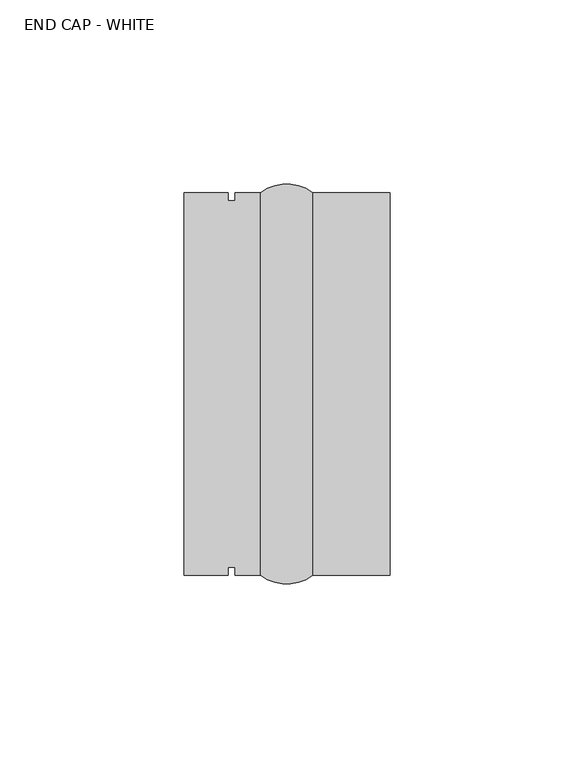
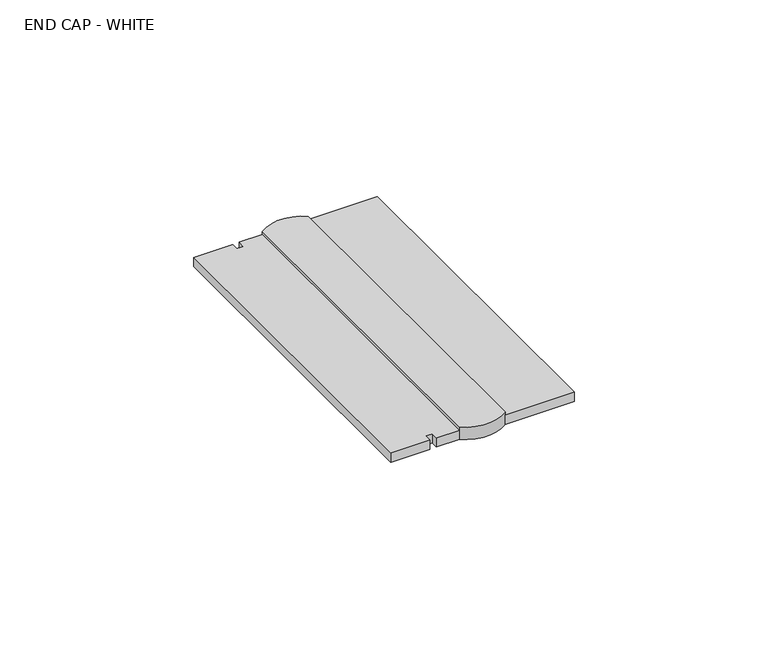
"""IFC4 building model written with IfcOpenShell, lengths in millimetres: proxy geometry, INDELAGUE-COVER_PLATE : END CAP - WHITE."""

from ifc_helpers import new_model, si_unit, frame, origin, place, context, project, spatial, circle_curve, source, transform, mapped, element, save
from ifc_brep_helpers import plane_surface, cylinder_surface, advanced_brep


def end_cap_white_c79084be(model_context):
    return source(origin(), model_context, "Body", "AdvancedBrep", [
        advanced_brep(
        [(28.0, 52.0, 3.0), (6.9627943, 52.0, 3.0), (6.9627943, -52.0, 3.0), (28.0, -52.0, 3.0), (-28.0, -52.0, 3.0), (-16.0528659, -52.0, 3.0), (-16.0528659, -49.8454065, 3.0), (-14.0744114, -49.8454065, 3.0), (-14.0744114, -52.0, 3.0), (-7.0963521, -52.0, 3.0), (-7.0963521, 52.0, 3.0), (-14.0744114, 52.0, 3.0), (-14.0744114, 49.8454065, 3.0), (-16.0528659, 49.8454065, 3.0), (-16.0528659, 52.0, 3.0), (-28.0, 52.0, 3.0), (28.0, 52.0, 0.0), (28.0, -52.0, 0.0), (6.9627943, -52.0, 0.0), (-7.0963521, -52.0, 0.0), (-14.0744114, -52.0, 0.0), (-14.0744114, -49.8454065, 0.0), (-16.0528659, -49.8454065, 0.0), (-16.0528659, -52.0, 0.0), (-28.0, -52.0, 0.0), (-28.0, 52.0, 0.0), (-16.0528659, 52.0, 0.0), (-16.0528659, 49.8454065, 0.0), (-14.0744114, 49.8454065, 0.0), (-14.0744114, 52.0, 0.0), (-7.0963521, 52.0, 0.0), (6.9627943, 52.0, 0.0), (6.9627943, 52.0, 4.0), (-7.0963521, 52.0, 4.0), (-7.0963521, -52.0, 4.0), (6.9627943, -52.0, 4.0)],
        [
            (0, 1),
            (1, 2),
            (2, 3),
            (3, 0),
            (4, 5),
            (5, 6),
            (6, 7),
            (7, 8),
            (8, 9),
            (9, 10),
            (10, 11),
            (11, 12),
            (12, 13),
            (13, 14),
            (14, 15),
            (15, 4),
            (16, 17),
            (17, 18),
            (18, 19, circle_curve(frame((-0.0667789, -42.7665213, 0.0), z_axis=(0.0, 0.0, -1.0), x_axis=(1.0, 0.0, 0.0)), 11.6048278)),
            (19, 20),
            (20, 21),
            (21, 22),
            (22, 23),
            (23, 24),
            (24, 25),
            (25, 26),
            (26, 27),
            (27, 28),
            (28, 29),
            (29, 30),
            (30, 31, circle_curve(frame((-0.0667789, 42.7665213, 0.0), z_axis=(0.0, 0.0, -1.0), x_axis=(1.0, 0.0, 0.0)), 11.6048278)),
            (31, 16),
            (3, 17),
            (16, 0),
            (31, 1),
            (15, 25),
            (24, 4),
            (23, 5),
            (22, 6),
            (21, 7),
            (20, 8),
            (19, 9),
            (2, 18),
            (10, 30),
            (29, 11),
            (28, 12),
            (27, 13),
            (26, 14),
            (32, 33, circle_curve(frame((-0.0667789, 42.7665213, 4.0), z_axis=(0.0, 0.0, 1.0), x_axis=(1.0, 0.0, 0.0)), 11.6048278)),
            (33, 34),
            (34, 35, circle_curve(frame((-0.0667789, -42.7665213, 4.0), z_axis=(0.0, 0.0, 1.0), x_axis=(1.0, 0.0, 0.0)), 11.6048278)),
            (35, 32),
            (32, 1),
            (10, 33),
            (9, 34),
            (2, 35),
        ],
        [
            plane_surface(frame((-16.0528659, -52.0, 3.0), z_axis=(0.0, 0.0, 1.0), x_axis=(1.0, 0.0, 0.0))),
            plane_surface(frame((-16.0528659, -52.0, 0.0), z_axis=(0.0, 0.0, -1.0), x_axis=(-1.0, 0.0, 0.0))),
            plane_surface(frame((28.0, -52.0, 3.0), z_axis=(1.0, 0.0, 0.0), x_axis=(0.0, 0.0, -1.0))),
            plane_surface(frame((28.0, 52.0, 3.0), z_axis=(0.0, 1.0, 0.0), x_axis=(0.0, 0.0, -1.0))),
            plane_surface(frame((-28.0, 52.0, 3.0), z_axis=(-1.0, 0.0, 0.0), x_axis=(0.0, 0.0, -1.0))),
            plane_surface(frame((-28.0, -52.0, 3.0), z_axis=(0.0, -1.0, 0.0), x_axis=(0.0, 0.0, -1.0))),
            plane_surface(frame((-16.0528659, -52.0, 3.0), z_axis=(1.0, 0.0, 0.0), x_axis=(0.0, 0.0, -1.0))),
            plane_surface(frame((-16.0528659, -49.8454065, 3.0), z_axis=(0.0, -1.0, 0.0), x_axis=(0.0, 0.0, -1.0))),
            plane_surface(frame((-14.0744114, -49.8454065, 3.0), z_axis=(-1.0, 0.0, 0.0), x_axis=(0.0, 0.0, -1.0))),
            plane_surface(frame((-14.0744114, -52.0, 3.0), z_axis=(0.0, -1.0, 0.0), x_axis=(0.0, 0.0, -1.0))),
            plane_surface(frame((6.9627943, -52.0, 3.0), z_axis=(0.0, -1.0, 0.0), x_axis=(0.0, 0.0, -1.0))),
            plane_surface(frame((-7.0963521, 52.0, 3.0), z_axis=(0.0, 1.0, 0.0), x_axis=(0.0, 0.0, -1.0))),
            plane_surface(frame((-14.0744114, 52.0, 3.0), z_axis=(-1.0, 0.0, 0.0), x_axis=(0.0, 0.0, -1.0))),
            plane_surface(frame((-14.0744114, 49.8454065, 3.0), z_axis=(0.0, 1.0, 0.0), x_axis=(0.0, 0.0, -1.0))),
            plane_surface(frame((-16.0528659, 49.8454065, 3.0), z_axis=(1.0, 0.0, 0.0), x_axis=(0.0, 0.0, -1.0))),
            plane_surface(frame((-16.0528659, 52.0, 3.0), z_axis=(0.0, 1.0, 0.0), x_axis=(0.0, 0.0, -1.0))),
            plane_surface(frame((11.5380489, 42.7665213, 4.0), z_axis=(0.0, 0.0, 1.0), x_axis=(0.0, 1.0, 0.0))),
            cylinder_surface(frame((-0.0667789, 42.7665213, 0.0), z_axis=(0.0, 0.0, 1.0), x_axis=(1.0, 0.0, 0.0)), 11.6048278),
            plane_surface(frame((-7.0963521, 52.0, 4.0), z_axis=(-1.0, 0.0, 0.0), x_axis=(0.0, 0.0, -1.0))),
            cylinder_surface(frame((-0.0667789, -42.7665213, 0.0), z_axis=(0.0, 0.0, 1.0), x_axis=(1.0, 0.0, 0.0)), 11.6048278),
            plane_surface(frame((6.9627943, -52.0, 4.0), z_axis=(1.0, 0.0, 0.0), x_axis=(0.0, 0.0, -1.0))),
        ],
        [
            (0, [[1, 2, 3, 4]]),
            (0, [[5, 6, 7, 8, 9, 10, 11, 12, 13, 14, 15, 16]]),
            (1, [[17, 18, 19, 20, 21, 22, 23, 24, 25, 26, 27, 28, 29, 30, 31, 32]]),
            (2, [[-4, 33, -17, 34]]),
            (3, [[-1, -34, -32, 35]]),
            (4, [[-16, 36, -25, 37]]),
            (5, [[-5, -37, -24, 38]]),
            (6, [[-6, -38, -23, 39]]),
            (7, [[-7, -39, -22, 40]]),
            (8, [[-8, -40, -21, 41]]),
            (9, [[-9, -41, -20, 42]]),
            (10, [[-3, 43, -18, -33]]),
            (11, [[-11, 44, -30, 45]]),
            (12, [[-12, -45, -29, 46]]),
            (13, [[-13, -46, -28, 47]]),
            (14, [[-14, -47, -27, 48]]),
            (15, [[-15, -48, -26, -36]]),
            (16, [[49, 50, 51, 52]]),
            (17, [[-49, 53, -35, -31, -44, 54]]),
            (18, [[-50, -54, -10, 55]]),
            (19, [[-51, -55, -42, -19, -43, 56]]),
            (20, [[-52, -56, -2, -53]]),
        ],
    ),
    ])


if __name__ == "__main__":
    model = new_model("IFC4")
    model_context = context("Model", 3, world=origin())
    ifc_project = project(units=[si_unit("LENGTHUNIT", "METRE", prefix="MILLI")], contexts=[model_context])
    site = spatial("IfcSite", under=ifc_project)
    building = spatial("IfcBuilding", under=site)
    placement = place(None, origin())
    end_cap_white_shape = end_cap_white_c79084be(model_context)
    element("IfcBuildingElementProxy", 1, Name="INDELAGUE-COVER_PLATE : END CAP - WHITE", ObjectType="INDELAGUE-COVER_PLATE : END CAP - WHITE", at=placement, inside=building, context=model_context, shape_type="MappedRepresentation", body=[
        mapped(end_cap_white_shape, transform((0.0, 0.0, 0.0), x_axis=(1.0, 0.0, 0.0), y_axis=(0.0, 1.0, 0.0), z_axis=(0.0, 0.0, 1.0))),
    ])
    save(model, "model.ifc")
